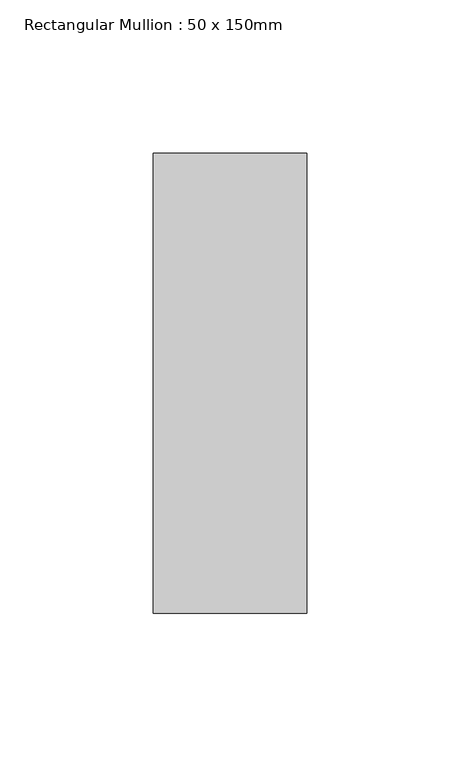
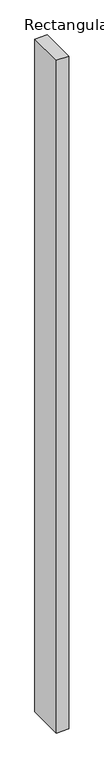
"""IFC4 building model written with IfcOpenShell, lengths in millimetres: member geometry, Rectangular Mullion : 50 x 150mm."""

import ifcopenshell
import ifcopenshell.guid

model = None  # the IFC model being written
_history = None  # IfcOwnerHistory: only IFC2X3 demands one
_inside = {}  # id of a spatial element -> (the spatial element, [elements in it])
_under = {}  # id of a project, library or spatial element -> (it, [spatial elements below it])
_declared = {}  # id of a project -> (the project, [libraries it declares])
_typed = {}  # id of a type object -> (the type object, [elements of that type])
_made_of = {}  # id of a material, layer set ... -> (it, [elements and type objects made of it])


def new_model(schema):
    """Start an empty IFC model of exactly this schema.

    Asked for "IFC4X3", IfcOpenShell would pick the latest addendum, in which some entities
    have other attributes; the version numbers below select the first issue.
    IFC2X3 requires an IfcOwnerHistory on every rooted entity: one is made here for all.
    """
    global model, _history
    if schema == "IFC4X3":
        model = ifcopenshell.file(schema_version=(4, 3, 0, 0))
    else:
        model = ifcopenshell.file(schema=schema)
    _inside.clear()
    _under.clear()
    _declared.clear()
    _typed.clear()
    _made_of.clear()
    _history = None
    if model.schema == "IFC2X3":
        org = make("IfcOrganization", Name="unknown")
        user = make(
            "IfcPersonAndOrganization",
            ThePerson=make("IfcPerson", FamilyName="unknown"),
            TheOrganization=org,
        )
        app = make(
            "IfcApplication",
            ApplicationDeveloper=org,
            Version="unknown",
            ApplicationFullName="unknown",
            ApplicationIdentifier="unknown",
        )
        _history = make(
            "IfcOwnerHistory",
            OwningUser=user,
            OwningApplication=app,
            ChangeAction="ADDED",
            CreationDate=0,
        )
    return model


def make(cls, **values):
    """One entity of the class cls with the attributes given. An attribute that is None is left unset."""
    return model.create_entity(
        cls, **{name: value for name, value in values.items() if value is not None}
    )


def rooted(cls, **values):
    """An entity with a GlobalId (a new one), such as an element, a storey or a relation."""
    return make(cls, GlobalId=ifcopenshell.guid.new(), OwnerHistory=_history, **values)


def si_unit(unit_type, name, prefix=None):
    """IfcSIUnit, for example si_unit("LENGTHUNIT", "METRE", prefix="MILLI")."""
    return make("IfcSIUnit", UnitType=unit_type, Prefix=prefix, Name=name)


def assignment(units):
    """IfcUnitAssignment: the units of a project."""
    return None if units is None else make("IfcUnitAssignment", Units=units)


def point(xyz):
    """IfcCartesianPoint."""
    return None if xyz is None else make("IfcCartesianPoint", Coordinates=xyz)


def direction(xyz):
    """IfcDirection."""
    return None if xyz is None else make("IfcDirection", DirectionRatios=xyz)


def frame(location, z_axis=None, x_axis=None):
    """IfcAxis2Placement3D, a coordinate frame: its origin and axes. An axis left out is left unset."""
    return make(
        "IfcAxis2Placement3D",
        Location=point(location),
        Axis=direction(z_axis),
        RefDirection=direction(x_axis),
    )


def origin():
    """The frame at (0, 0, 0) with its axes left unset."""
    return frame((0.0, 0.0, 0.0))


def place(relative_to, where):
    """IfcLocalPlacement: puts the frame where relative to a parent placement (None: the world)."""
    return make(
        "IfcLocalPlacement", PlacementRelTo=relative_to, RelativePlacement=where
    )


def context(
    kind, dimensions, precision=None, world=None, true_north=None, identifier=None
):
    """IfcGeometricRepresentationContext, for example the 3D "Model" context."""
    return make(
        "IfcGeometricRepresentationContext",
        ContextIdentifier=identifier,
        ContextType=kind,
        CoordinateSpaceDimension=dimensions,
        Precision=precision,
        WorldCoordinateSystem=world,
        TrueNorth=true_north,
    )


def project(units=None, contexts=None):
    """IfcProject with its units and contexts."""
    return rooted(
        "IfcProject",
        Name="project",
        RepresentationContexts=contexts,
        UnitsInContext=assignment(units),
    )


def spatial(cls, under=None, at=None, **own):
    """A site, building, storey or space (cls), placed at a placement, below another one or the project."""
    s = rooted(cls, ObjectPlacement=at, **own)
    if under is not None:
        _under.setdefault(under.id(), (under, []))[1].append(s)
    return s


def polyline(points):
    """IfcPolyline through the points."""
    return make("IfcPolyline", Points=[point(p) for p in points])


def outline(outer, holes=None, kind="AREA"):
    """IfcArbitraryClosedProfileDef: a profile drawn as a closed curve; with holes, ...WithVoids."""
    if holes is None:
        return make("IfcArbitraryClosedProfileDef", ProfileType=kind, OuterCurve=outer)
    return make(
        "IfcArbitraryProfileDefWithVoids",
        ProfileType=kind,
        OuterCurve=outer,
        InnerCurves=holes,
    )


def extrude(swept, where, along, depth):
    """IfcExtrudedAreaSolid: the profile swept, set in the frame where, extruded along a direction by depth."""
    return make(
        "IfcExtrudedAreaSolid",
        SweptArea=swept,
        Position=where,
        ExtrudedDirection=direction(along),
        Depth=depth,
    )


def shape(context_of_items, identifier, shape_type, items):
    """IfcShapeRepresentation: the items that make up one representation, for example the "Body"."""
    return make(
        "IfcShapeRepresentation",
        ContextOfItems=context_of_items,
        RepresentationIdentifier=identifier,
        RepresentationType=shape_type,
        Items=items,
    )


def source(mapping_origin, context_of_items, identifier, shape_type, items):
    """IfcRepresentationMap: a shape defined once, which mapped items show again and again."""
    return make(
        "IfcRepresentationMap",
        MappingOrigin=mapping_origin,
        MappedRepresentation=shape(context_of_items, identifier, shape_type, items),
    )


def transform(
    local_origin,
    x_axis=None,
    y_axis=None,
    z_axis=None,
    scale=None,
    scale2=None,
    scale3=None,
    uniform=True,
):
    """IfcCartesianTransformationOperator3D, or its non-uniform kind. x_axis, y_axis, z_axis: its Axis1, 2, 3."""
    if uniform:
        return make(
            "IfcCartesianTransformationOperator3D",
            Axis1=direction(x_axis),
            Axis2=direction(y_axis),
            LocalOrigin=point(local_origin),
            Scale=scale,
            Axis3=direction(z_axis),
        )
    return make(
        "IfcCartesianTransformationOperator3DnonUniform",
        Axis1=direction(x_axis),
        Axis2=direction(y_axis),
        LocalOrigin=point(local_origin),
        Scale=scale,
        Axis3=direction(z_axis),
        Scale2=scale2,
        Scale3=scale3,
    )


def mapped(mapping_source, mapping_target):
    """IfcMappedItem: shows the shape of a source again, moved by a transform."""
    return make(
        "IfcMappedItem", MappingSource=mapping_source, MappingTarget=mapping_target
    )


def made_of(thing, what):
    """Note that an element or type object is made of a material, layer set ...; save() writes the relation."""
    if what is not None:
        _made_of.setdefault(what.id(), (what, []))[1].append(thing)
    return thing


def element(
    cls,
    number,
    at=None,
    inside=None,
    cuts=None,
    type_object=None,
    material=None,
    context=None,
    identifier="Body",
    shape_type=None,
    held_by="IfcProductDefinitionShape",
    body=None,
    shapes=None,
    **own,
):
    """One element of the class cls, such as IfcWall. Its Tag is "e" and its number.

    at: its placement. inside: the storey or other place that contains it. cuts: it is an
    opening in that element (IfcRelVoidsElement). A single representation is given by context,
    identifier, shape_type and body (its items); several are given by shapes. held_by: the class
    of the entity that holds the representations. save() writes the other relations.
    """
    e = rooted(cls, Tag="e%d" % number, ObjectPlacement=at, **own)
    if body is not None:
        shapes = [shape(context, identifier, shape_type, body)]
    if shapes is not None:
        e.Representation = make(held_by, Representations=shapes)
    if inside is not None:
        _inside.setdefault(inside.id(), (inside, []))[1].append(e)
    if cuts is not None:
        rooted(
            "IfcRelVoidsElement", RelatingBuildingElement=cuts, RelatedOpeningElement=e
        )
    if type_object is not None:
        _typed.setdefault(type_object.id(), (type_object, []))[1].append(e)
    return made_of(e, material)


def aggregate(whole, parts):
    """IfcRelAggregates: a whole, such as a stair, and the parts it consists of."""
    return rooted("IfcRelAggregates", RelatingObject=whole, RelatedObjects=parts)


def save(model, path):
    """Write the relations noted so far, then the file.

    IfcRelAggregates (storeys below a building ...), IfcRelContainedInSpatialStructure (elements
    in a storey), IfcRelDefinesByType, IfcRelAssociatesMaterial and IfcRelDeclares: one each for
    every whole, place, type object, material and project.
    """
    for whole, parts in _under.values():
        aggregate(whole, parts)
    for where, things in _inside.values():
        rooted(
            "IfcRelContainedInSpatialStructure",
            RelatedElements=things,
            RelatingStructure=where,
        )
    for kind, things in _typed.values():
        rooted("IfcRelDefinesByType", RelatedObjects=things, RelatingType=kind)
    for what, things in _made_of.values():
        rooted("IfcRelAssociatesMaterial", RelatedObjects=things, RelatingMaterial=what)
    for by, libraries in _declared.values():
        rooted("IfcRelDeclares", RelatingContext=by, RelatedDefinitions=libraries)
    model.write(path)


def rectangular_mullion_50_x_150mm_603ec532(model_context):
    return source(origin(), model_context, "Body", "SweptSolid", [
        extrude(outline(polyline([(25.0, 75.0), (25.0, -75.0), (-25.0, -75.0), (-25.0, 75.0), (25.0, 75.0)])), frame((0.0, 0.0, -2875.0), z_axis=(0.0, 0.0, 1.0), x_axis=(1.0, 0.0, 0.0)), (0.0, 0.0, 1.0), 2875.0),
    ])


if __name__ == "__main__":
    model = new_model("IFC4")
    model_context = context("Model", 3, world=origin())
    ifc_project = project(units=[si_unit("LENGTHUNIT", "METRE", prefix="MILLI")], contexts=[model_context])
    site = spatial("IfcSite", under=ifc_project)
    building = spatial("IfcBuilding", under=site)
    placement = place(None, origin())
    rectangular_mullion_50_x_150mm_shape = rectangular_mullion_50_x_150mm_603ec532(model_context)
    element("IfcMember", 1, ObjectType="Rectangular Mullion : 50 x 150mm", at=placement, inside=building, context=model_context, shape_type="MappedRepresentation", body=[
        mapped(rectangular_mullion_50_x_150mm_shape, transform((0.0, 0.0, 0.0), x_axis=(1.0, 0.0, 0.0), y_axis=(0.0, 1.0, 0.0), z_axis=(0.0, 0.0, 1.0))),
    ])
    save(model, "model.ifc")
